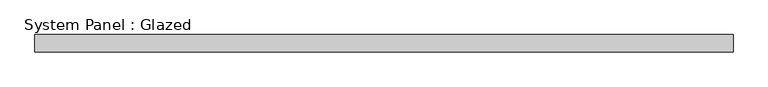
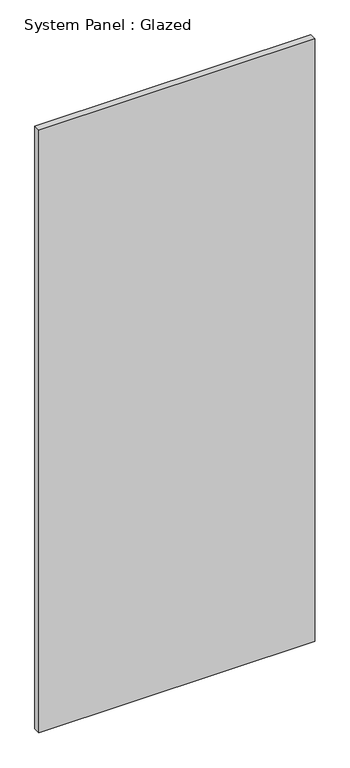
"""IFC4 building model written with IfcOpenShell, lengths in millimetres: plate geometry, System Panel : Glazed."""

from ifc_helpers import new_model, si_unit, origin, origin_with_axes, place, context, project, spatial, polyline, outline, extrude, source, transform, mapped, element, save


def system_panel_glazed_cda0cb40(model_context):
    return source(origin(), model_context, "Body", "SweptSolid", [
        extrude(outline(polyline([(514.35, 19.05), (-514.35, 19.05), (-514.35, 44.45), (514.35, 44.45), (514.35, 19.05)])), origin_with_axes(), (0.0, 0.0, 1.0), 2374.9),
    ])


if __name__ == "__main__":
    model = new_model("IFC4")
    model_context = context("Model", 3, world=origin())
    ifc_project = project(units=[si_unit("LENGTHUNIT", "METRE", prefix="MILLI")], contexts=[model_context])
    site = spatial("IfcSite", under=ifc_project)
    building = spatial("IfcBuilding", under=site)
    placement = place(None, origin())
    system_panel_glazed_shape = system_panel_glazed_cda0cb40(model_context)
    element("IfcPlate", 1, ObjectType="System Panel : Glazed", at=placement, inside=building, context=model_context, shape_type="MappedRepresentation", body=[
        mapped(system_panel_glazed_shape, transform((0.0, 0.0, 0.0), x_axis=(1.0, 0.0, 0.0), y_axis=(0.0, 1.0, 0.0), z_axis=(0.0, 0.0, 1.0))),
    ])
    save(model, "model.ifc")
